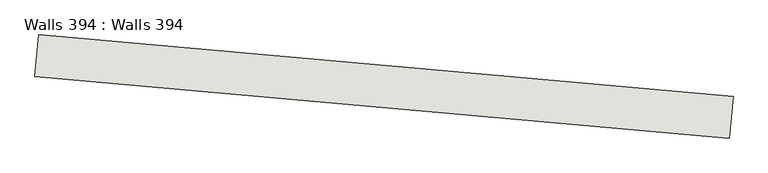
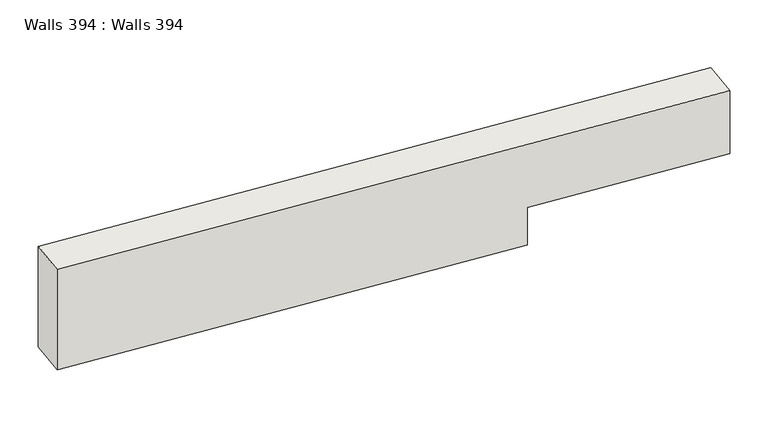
"""IFC4 building model written with IfcOpenShell, lengths in millimetres: wall geometry, Walls 394 : Walls 394."""

from ifc_helpers import new_model, si_unit, frame, origin, place, context, project, spatial, polyline, outline, extrude, source, transform, mapped, element, save


def walls_394_walls_394_be9c7f32(model_context):
    return source(origin(), model_context, "Body", "SweptSolid", [
        extrude(outline(polyline([(-2000.0, 0.0), (4649.9999999, 0.0), (4649.9999999, -1100.0), (0.0, -1100.0), (0.0, -690.0), (-2000.0, -690.0), (-2000.0, 0.0)])), frame((-590353.0685197, -426486.6725995, 637960.0), z_axis=(0.08873732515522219, 0.9960550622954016, 0.0), x_axis=(-0.9960550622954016, 0.08873732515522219, 0.0)), (0.0, 0.0, 1.0), 400.0),
    ])


if __name__ == "__main__":
    model = new_model("IFC4")
    model_context = context("Model", 3, world=origin())
    ifc_project = project(units=[si_unit("LENGTHUNIT", "METRE", prefix="MILLI")], contexts=[model_context])
    site = spatial("IfcSite", under=ifc_project)
    building = spatial("IfcBuilding", under=site)
    placement = place(None, origin())
    walls_394_walls_394_shape = walls_394_walls_394_be9c7f32(model_context)
    element("IfcWall", 1, ObjectType="Walls 394 : Walls 394", at=placement, inside=building, context=model_context, shape_type="MappedRepresentation", body=[
        mapped(walls_394_walls_394_shape, transform((0.0, 0.0, 0.0), x_axis=(1.0, 0.0, 0.0), y_axis=(0.0, 1.0, 0.0), z_axis=(0.0, 0.0, 1.0))),
    ])
    save(model, "model.ifc")
